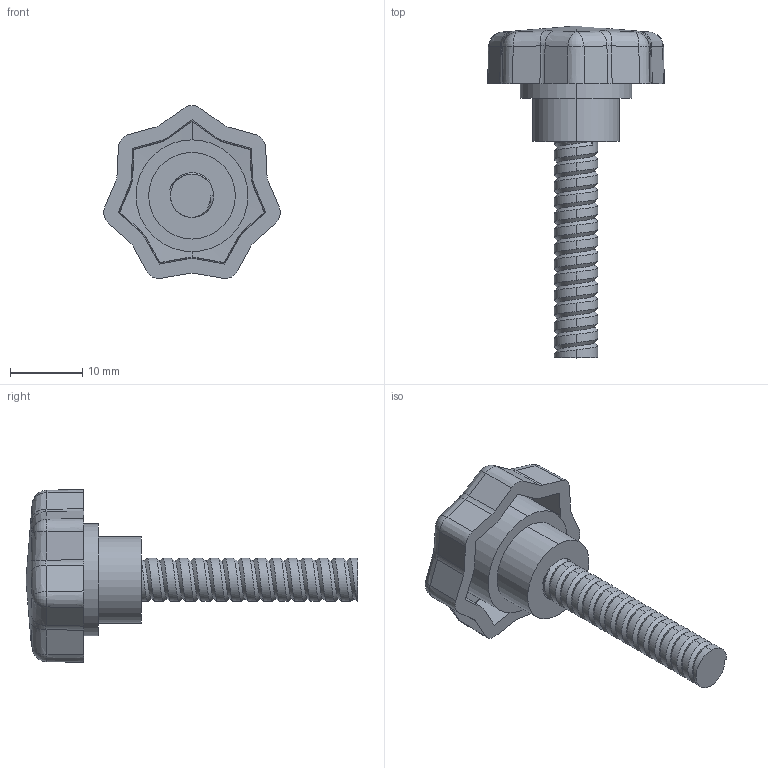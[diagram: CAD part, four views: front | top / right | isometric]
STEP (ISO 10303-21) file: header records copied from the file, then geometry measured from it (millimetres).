
FILE_DESCRIPTION (( 'STEP AP203' ), '1' );
FILE_NAME ('AP-1050-25-M6-30.STEP', '2015-11-23T11:52:34', ( '' ), ( '' ), 'SwSTEP 2.0', 'SolidWorks 2014', '' );
FILE_SCHEMA (( 'CONFIG_CONTROL_DESIGN' ));
Length unit declared in the file: millimetre
Products named in the file (1): AP-1050-25-M6-30
Bounding box: 24.46 x 46 x 23.96 mm (x, y, z)
Volume: 4396.7 mm3; surface area: 2849 mm2
Topology: 1 solids, 1 shells, 147 faces, 375 edges, 224 vertices
Faces by surface type: cylinder 51, bspline 51, plane 34, cone 11
Entity records: 7994 total; most frequent: CARTESIAN_POINT 5064, ORIENTED_EDGE 732, DIRECTION 416, EDGE_CURVE 366, VERTEX_POINT 224, EDGE_LOOP 150, ADVANCED_FACE 147, FACE_OUTER_BOUND 147
